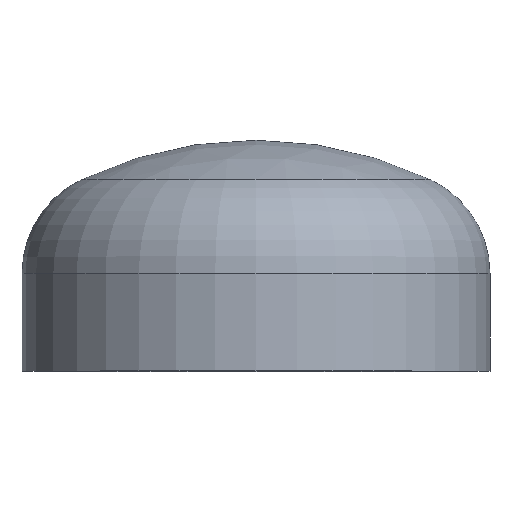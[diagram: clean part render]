
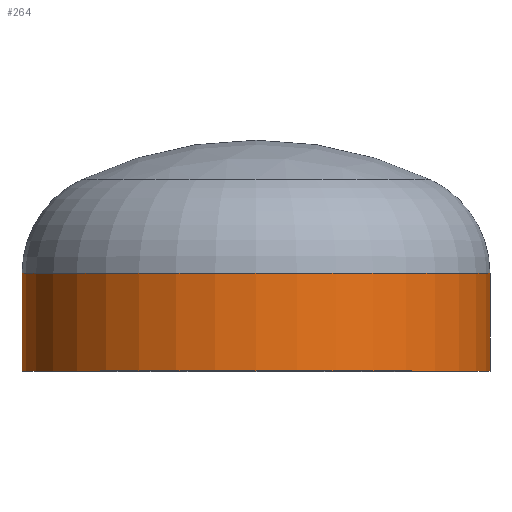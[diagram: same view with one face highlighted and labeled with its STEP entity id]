
A CAD part, top view. The second image highlights one B-rep face of the part: STEP entity #264.
In plain terms, the highlighted cylindrical face has radius 203.2 mm (diameter 406.4 mm), a partial arc.
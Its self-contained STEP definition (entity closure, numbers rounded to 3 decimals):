
#8 = AXIS2_PLACEMENT_3D ( 'NONE', #391, #39, #187 ) ;
#33 = VERTEX_POINT ( 'NONE', #353 ) ;
#39 = DIRECTION ( 'NONE',  ( 0., -1., 0. ) ) ;
#45 = EDGE_LOOP ( 'NONE', ( #87, #110, #145, #399 ) ) ;
#61 = VERTEX_POINT ( 'NONE', #288 ) ;
#63 = AXIS2_PLACEMENT_3D ( 'NONE', #226, #231, #230 ) ;
#67 = EDGE_CURVE ( 'NONE', #33, #148, #183, .T. ) ;
#76 = CARTESIAN_POINT ( 'NONE',  ( 0., 0., 0. ) ) ;
#87 = ORIENTED_EDGE ( 'NONE', *, *, #67, .T. ) ;
#110 = ORIENTED_EDGE ( 'NONE', *, *, #393, .T. ) ;
#115 = LINE ( 'NONE', #132, #394 ) ;
#132 = CARTESIAN_POINT ( 'NONE',  ( -203.2, 0., 0. ) ) ;
#133 = DIRECTION ( 'NONE',  ( 0., -1., 0. ) ) ;
#135 = VECTOR ( 'NONE', #349, 1000. ) ;
#145 = ORIENTED_EDGE ( 'NONE', *, *, #367, .F. ) ;
#148 = VERTEX_POINT ( 'NONE', #341 ) ;
#150 = VERTEX_POINT ( 'NONE', #234 ) ;
#183 = CIRCLE ( 'NONE', #63, 203.2 ) ;
#184 = FACE_OUTER_BOUND ( 'NONE', #45, .T. ) ;
#187 = DIRECTION ( 'NONE',  ( 1., 0., 0. ) ) ;
#226 = CARTESIAN_POINT ( 'NONE',  ( 0., 85., 0. ) ) ;
#227 = LINE ( 'NONE', #347, #135 ) ;
#230 = DIRECTION ( 'NONE',  ( 1., 0., 0. ) ) ;
#231 = DIRECTION ( 'NONE',  ( 0., -1., 0. ) ) ;
#234 = CARTESIAN_POINT ( 'NONE',  ( -203.2, 0., 0. ) ) ;
#264 = ADVANCED_FACE ( 'NONE', ( #184 ), #358, .T. ) ;
#278 = CIRCLE ( 'NONE', #375, 203.2 ) ;
#288 = CARTESIAN_POINT ( 'NONE',  ( 203.2, 0., 0. ) ) ;
#292 = DIRECTION ( 'NONE',  ( 0., -1., 0. ) ) ;
#294 = DIRECTION ( 'NONE',  ( 1., 0., 0. ) ) ;
#341 = CARTESIAN_POINT ( 'NONE',  ( -203.2, 85., 0. ) ) ;
#347 = CARTESIAN_POINT ( 'NONE',  ( 203.2, 0., 0. ) ) ;
#349 = DIRECTION ( 'NONE',  ( 0., -1., 0. ) ) ;
#353 = CARTESIAN_POINT ( 'NONE',  ( 203.2, 85., 0. ) ) ;
#357 = EDGE_CURVE ( 'NONE', #33, #61, #227, .T. ) ;
#358 = CYLINDRICAL_SURFACE ( 'NONE', #8, 203.2 ) ;
#367 = EDGE_CURVE ( 'NONE', #61, #150, #278, .T. ) ;
#375 = AXIS2_PLACEMENT_3D ( 'NONE', #76, #292, #294 ) ;
#391 = CARTESIAN_POINT ( 'NONE',  ( 0., 0., 0. ) ) ;
#393 = EDGE_CURVE ( 'NONE', #148, #150, #115, .T. ) ;
#394 = VECTOR ( 'NONE', #133, 1000. ) ;
#399 = ORIENTED_EDGE ( 'NONE', *, *, #357, .F. ) ;
